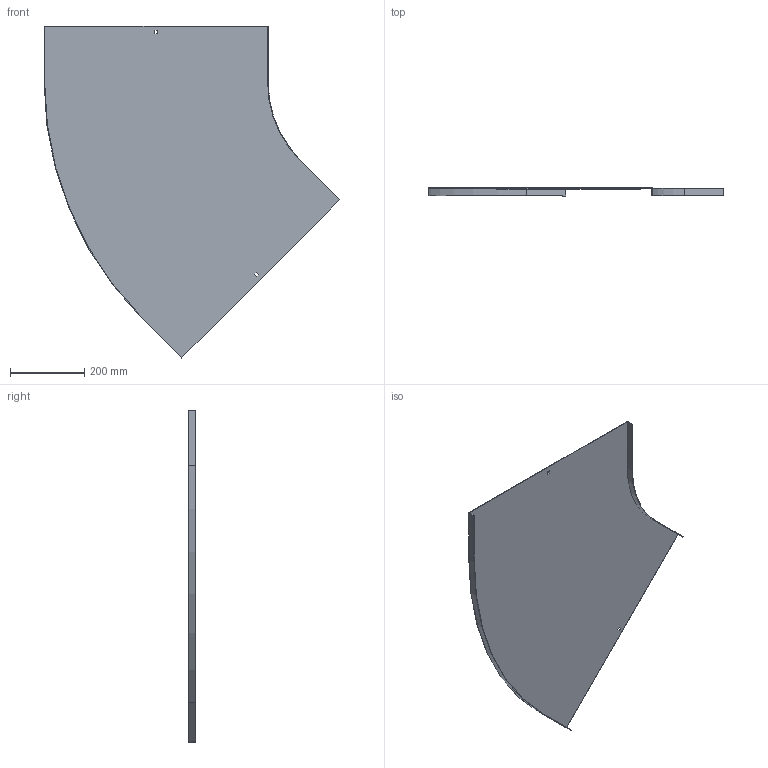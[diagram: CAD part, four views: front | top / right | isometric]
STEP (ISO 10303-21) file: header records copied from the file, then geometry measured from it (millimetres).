
FILE_DESCRIPTION (( 'STEP AP214' ), '1' );
FILE_NAME ('A2_11N3R600.step', '2025-02-21T10:50:41', ( '' ), ( '' ), 'SwSTEP 2.0', 'SolidWorks 2023', '' );
FILE_SCHEMA (( 'AUTOMOTIVE_DESIGN' ));
Length unit declared in the file: millimetre
Products named in the file (1): A2_11N3R600
Bounding box: 796.49 x 20 x 893.52 mm (x, y, z)
Volume: 740213.8 mm3; surface area: 991278.5 mm2
Topology: 1 solids, 1 shells, 26 faces, 72 edges, 48 vertices
Faces by surface type: plane 22, cylinder 4
Entity records: 855 total; most frequent: CARTESIAN_POINT 147, ORIENTED_EDGE 144, DIRECTION 134, EDGE_CURVE 72, LINE 64, VECTOR 64, VERTEX_POINT 48, AXIS2_PLACEMENT_3D 35
